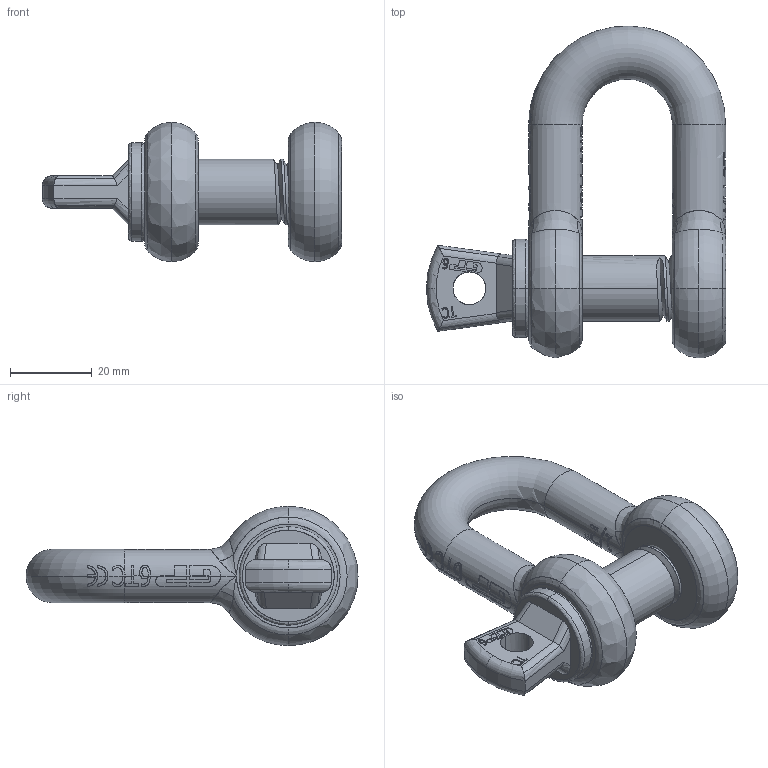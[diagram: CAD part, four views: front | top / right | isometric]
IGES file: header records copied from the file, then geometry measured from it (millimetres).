
Start section: START RECORD GO HERE.
Global section: file name: 2.igs; native system: Solidworks 2009      A Version 5 Release 17 ; preprocessor: Solidworks                 ; author: v.b.; organization: P4; date: 20090807.081855; units: millimetre
Bounding box: 73 x 81 x 34 mm (x, y, z)
Surface area: 15333.4 mm2 (no closed solid volume)
Topology: 0 solids, 0 shells, 584 faces, 4469 edges, 4461 vertices
Faces by surface type: plane 212, bspline 209, revolution 163
